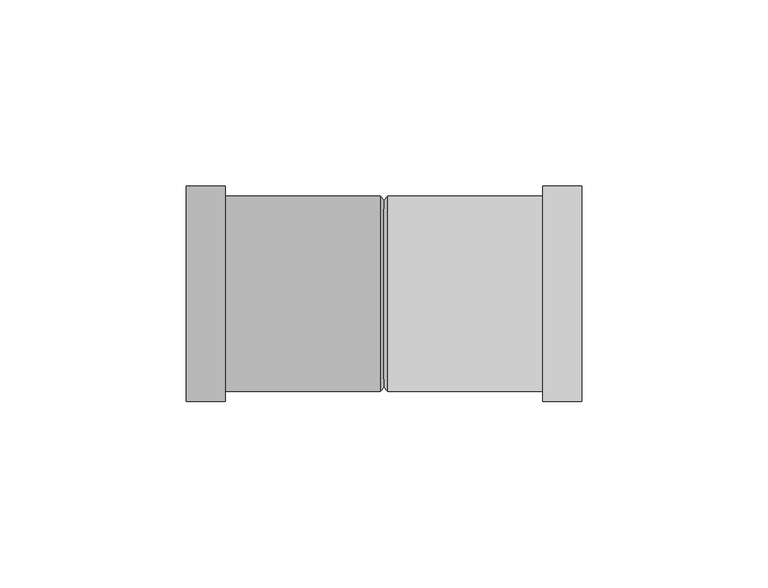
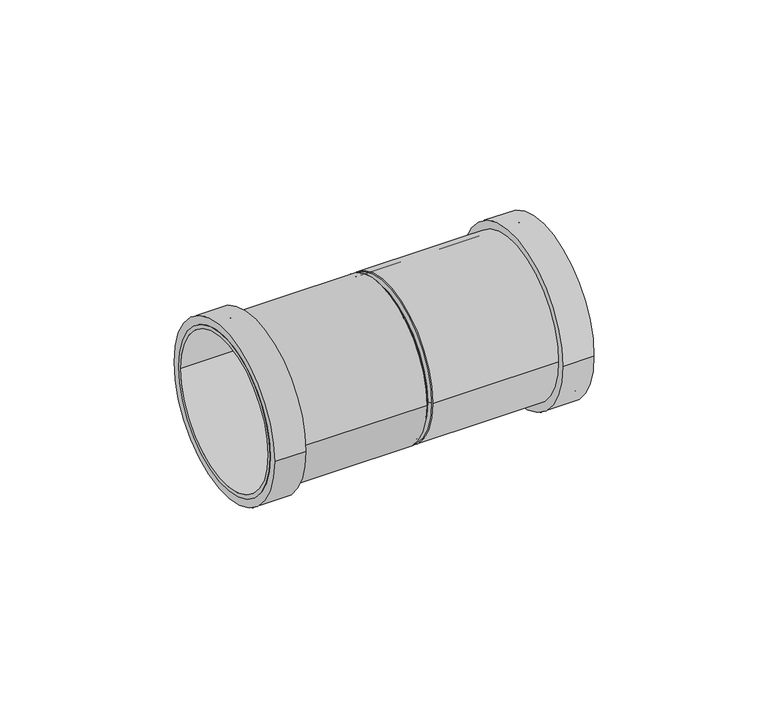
"""IFC4 building model written with IfcOpenShell, lengths in millimetres: pipe fitting geometry, Superdrain HTMM-Double socket : Superdrain HTMM-Double socket."""

from ifc_helpers import new_model, si_unit, point, frame, origin, origin_2d, place, context, project, spatial, polyline, circle_curve, trimmed, segment, composite_curve, outline, extrude, source, transform, mapped, element, save
from ifc_brep_helpers import plane_surface, revolved_surface, advanced_brep


def pipe_fitting_77622ff3(model_context):
    return source(origin(), model_context, "Body", "SolidModel", [
        extrude(outline(composite_curve([segment(trimmed(circle_curve(origin_2d(), 26.25), [point((26.25, 0.0))], [point((-26.25, 0.0))], False, "CARTESIAN"), True, "CONTINUOUS"), segment(trimmed(circle_curve(origin_2d(), 26.25), [point((-26.25, 0.0))], [point((26.25, 0.0))], False, "CARTESIAN"), True, "CONTINUOUS")], self_intersect=False), holes=[composite_curve([segment(trimmed(circle_curve(origin_2d(), 25.0), [point((25.0, 0.0))], [point((-25.0, 0.0))], True, "CARTESIAN"), True, "CONTINUOUS"), segment(trimmed(circle_curve(origin_2d(), 25.0), [point((-25.0, 0.0))], [point((25.0, 0.0))], True, "CARTESIAN"), True, "CONTINUOUS")], self_intersect=False)]), frame((1.0, 0.0, 0.0), z_axis=(1.0, 0.0, 0.0), x_axis=(0.0, 1.0, 0.0)), (0.0, 0.0, 1.0), 52.0),
        extrude(outline(composite_curve([segment(trimmed(circle_curve(origin_2d(), 28.875), [point((28.875, 0.0))], [point((-28.875, 0.0))], False, "CARTESIAN"), True, "CONTINUOUS"), segment(trimmed(circle_curve(origin_2d(), 28.875), [point((-28.875, 0.0))], [point((28.875, 0.0))], False, "CARTESIAN"), True, "CONTINUOUS")], self_intersect=False), holes=[composite_curve([segment(trimmed(circle_curve(origin_2d(), 25.0), [point((25.0, 0.0))], [point((-25.0, 0.0))], True, "CARTESIAN"), True, "CONTINUOUS"), segment(trimmed(circle_curve(origin_2d(), 25.0), [point((-25.0, 0.0))], [point((25.0, 0.0))], True, "CARTESIAN"), True, "CONTINUOUS")], self_intersect=False)]), frame((42.6, 0.0, 0.0), z_axis=(1.0, 0.0, 0.0), x_axis=(0.0, 1.0, 0.0)), (0.0, 0.0, 1.0), 10.4),
        advanced_brep(
        [(0.0, 25.0, 0.0), (0.0, -25.0, 0.0), (1.0, 26.25, 0.0), (1.0, -26.25, 0.0)],
        [
            (0, 1, circle_curve(frame((0.0, 0.0, 0.0), z_axis=(-1.0, 0.0, 0.0), x_axis=(0.0, 1.0000000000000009, 0.0)), 25.0)),
            (1, 0, circle_curve(frame((0.0, 0.0, 0.0), z_axis=(-1.0, 0.0, 0.0), x_axis=(0.0, -1.0000000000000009, 0.0)), 25.0)),
            (2, 3, circle_curve(frame((1.0, 0.0, 0.0), z_axis=(1.0, 0.0, 0.0), x_axis=(0.0, -1.0000000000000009, 0.0)), 26.25)),
            (3, 2, circle_curve(frame((1.0, 0.0, 0.0), z_axis=(1.0, 0.0, 0.0), x_axis=(0.0, 1.0000000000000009, 0.0)), 26.25)),
            (3, 1),
            (0, 2),
        ],
        [
            plane_surface(frame((0.0, 0.0, 0.0), z_axis=(-1.0, 0.0, 0.0), x_axis=(0.0, 0.0, -1.0))),
            plane_surface(frame((1.0, 0.0, 0.0), z_axis=(1.0, 0.0, 0.0), x_axis=(0.0, 0.0, -1.0))),
            revolved_surface(polyline([(-3.552713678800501e-15, 24.999999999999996, 0.0), (1.0, 26.25, 0.0)]), (-20.0, 0.0, 0.0), (1.0000000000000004, 0.0, 0.0)),
            revolved_surface(polyline([(-3.552713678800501e-15, -24.999999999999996, 0.0), (1.0, -26.25, 0.0)]), (-20.0, 0.0, 0.0), (1.0000000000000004, 0.0, 0.0)),
        ],
        [
            (0, [[1, 2]]),
            (1, [[3, 4]]),
            (2, [[-4, 5, -1, 6]]),
            (3, [[-3, -6, -2, -5]]),
        ],
    ),
        extrude(outline(composite_curve([segment(trimmed(circle_curve(origin_2d(), 26.25), [point((-26.25, 0.0))], [point((26.25, 0.0))], False, "CARTESIAN"), True, "CONTINUOUS"), segment(trimmed(circle_curve(origin_2d(), 26.25), [point((26.25, 0.0))], [point((-26.25, 0.0))], False, "CARTESIAN"), True, "CONTINUOUS")], self_intersect=False), holes=[composite_curve([segment(trimmed(circle_curve(origin_2d(), 25.0), [point((-25.0, 0.0))], [point((25.0, 0.0))], True, "CARTESIAN"), True, "CONTINUOUS"), segment(trimmed(circle_curve(origin_2d(), 25.0), [point((25.0, 0.0))], [point((-25.0, 0.0))], True, "CARTESIAN"), True, "CONTINUOUS")], self_intersect=False)]), frame((-53.0, 0.0, 0.0), z_axis=(1.0, 0.0, 0.0), x_axis=(0.0, 1.0, 0.0)), (0.0, 0.0, 1.0), 52.0),
        extrude(outline(composite_curve([segment(trimmed(circle_curve(origin_2d(), 28.875), [point((-28.875, 0.0))], [point((28.875, 0.0))], False, "CARTESIAN"), True, "CONTINUOUS"), segment(trimmed(circle_curve(origin_2d(), 28.875), [point((28.875, 0.0))], [point((-28.875, 0.0))], False, "CARTESIAN"), True, "CONTINUOUS")], self_intersect=False), holes=[composite_curve([segment(trimmed(circle_curve(origin_2d(), 25.0), [point((-25.0, 0.0))], [point((25.0, 0.0))], True, "CARTESIAN"), True, "CONTINUOUS"), segment(trimmed(circle_curve(origin_2d(), 25.0), [point((25.0, 0.0))], [point((-25.0, 0.0))], True, "CARTESIAN"), True, "CONTINUOUS")], self_intersect=False)]), frame((-53.0, 0.0, 0.0), z_axis=(1.0, 0.0, 0.0), x_axis=(0.0, 1.0, 0.0)), (0.0, 0.0, 1.0), 10.4),
        advanced_brep(
        [(0.0, -25.0, 0.0), (0.0, 25.0, 0.0), (-1.0, -26.25, 0.0), (-1.0, 26.25, 0.0)],
        [
            (0, 1, circle_curve(frame((0.0, 0.0, 0.0), z_axis=(1.0, 0.0, 0.0), x_axis=(0.0, -1.0, 0.0)), 25.0)),
            (1, 0, circle_curve(frame((0.0, 0.0, 0.0), z_axis=(1.0, 0.0, 0.0), x_axis=(0.0, 1.0, 0.0)), 25.0)),
            (2, 3, circle_curve(frame((-1.0, 0.0, 0.0), z_axis=(-1.0, 0.0, 0.0), x_axis=(0.0, 1.0, 0.0)), 26.25)),
            (3, 2, circle_curve(frame((-1.0, 0.0, 0.0), z_axis=(-1.0, 0.0, 0.0), x_axis=(0.0, -1.0, 0.0)), 26.25)),
            (3, 1),
            (0, 2),
        ],
        [
            plane_surface(frame((0.0, 0.0, 0.0), z_axis=(1.0, 0.0, 0.0), x_axis=(0.0, 0.0, -1.0))),
            plane_surface(frame((-1.0, 0.0, 0.0), z_axis=(-1.0, 0.0, 0.0), x_axis=(0.0, 0.0, -1.0))),
            revolved_surface(polyline([(0.0, -25.0, 0.0), (-1.0, -26.25, 0.0)]), (20.0, 0.0, 0.0), (-1.0, 0.0, 0.0)),
            revolved_surface(polyline([(0.0, 25.0, 0.0), (-1.0, 26.25, 0.0)]), (20.0, 0.0, 0.0), (-1.0, 0.0, 0.0)),
        ],
        [
            (0, [[1, 2]]),
            (1, [[3, 4]]),
            (2, [[-4, 5, -1, 6]]),
            (3, [[-3, -6, -2, -5]]),
        ],
    ),
        extrude(outline(composite_curve([segment(trimmed(circle_curve(origin_2d(), 25.0), [point((-25.0, 0.0))], [point((25.0, 0.0))], False, "CARTESIAN"), True, "CONTINUOUS"), segment(trimmed(circle_curve(origin_2d(), 25.0), [point((25.0, 0.0))], [point((-25.0, 0.0))], False, "CARTESIAN"), True, "CONTINUOUS")], self_intersect=False)), frame((-1.0, 0.0, 0.0), z_axis=(1.0, 0.0, 0.0), x_axis=(0.0, 1.0, 0.0)), (0.0, 0.0, 1.0), 2.0),
    ])


if __name__ == "__main__":
    model = new_model("IFC4")
    model_context = context("Model", 3, world=origin())
    ifc_project = project(units=[si_unit("LENGTHUNIT", "METRE", prefix="MILLI")], contexts=[model_context])
    site = spatial("IfcSite", under=ifc_project)
    building = spatial("IfcBuilding", under=site)
    placement = place(None, origin())
    pipe_fitting_shape = pipe_fitting_77622ff3(model_context)
    element("IfcPipeFitting", 1, ObjectType="Superdrain HTMM-Double socket : Superdrain HTMM-Double socket", at=placement, inside=building, context=model_context, shape_type="MappedRepresentation", body=[
        mapped(pipe_fitting_shape, transform((0.0, 0.0, 0.0), x_axis=(1.0, 0.0, 0.0), y_axis=(0.0, 1.0, 0.0), z_axis=(0.0, 0.0, 1.0))),
    ])
    save(model, "model.ifc")
